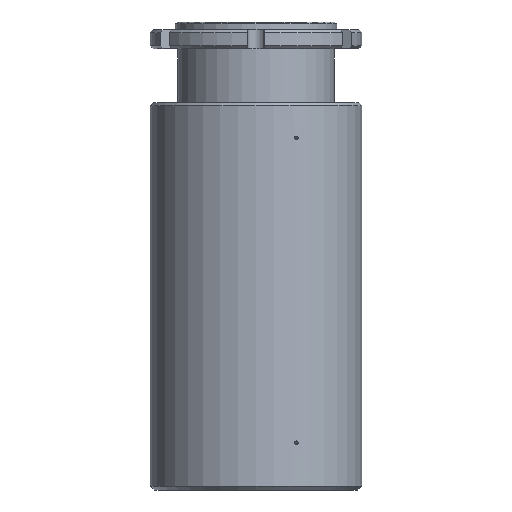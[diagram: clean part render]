
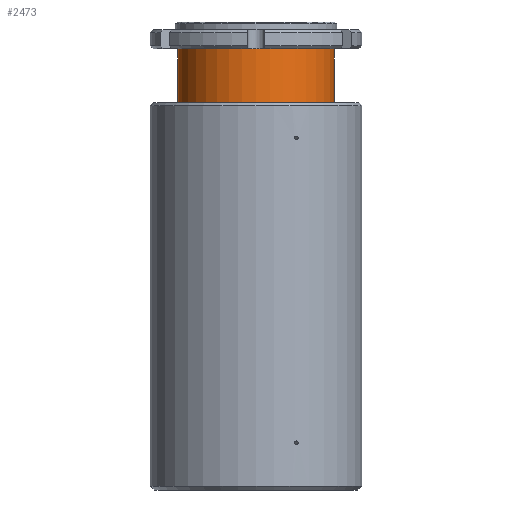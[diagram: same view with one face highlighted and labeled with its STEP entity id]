
A CAD part, front view. The second image highlights one B-rep face of the part: STEP entity #2473.
In plain terms, the highlighted cylindrical face has radius 32.36 mm (diameter 64.719 mm), a partial arc.
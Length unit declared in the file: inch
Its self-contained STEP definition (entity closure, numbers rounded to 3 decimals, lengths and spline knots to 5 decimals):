
#820 = AXIS2_PLACEMENT_3D ( 'NONE', #8762, #8763, #8764 ) ;
#983 = VECTOR ( 'NONE', #8660, 39.37008 ) ;
#1035 = CIRCLE ( 'NONE', #820, 1.274 ) ;
#1334 = AXIS2_PLACEMENT_3D ( 'NONE', #8765, #8766, #8767 ) ;
#1340 = CIRCLE ( 'NONE', #1334, 1.274 ) ;
#1604 = EDGE_CURVE ( 'NONE', #9570, #9563, #8655, .T. ) ;
#1626 = EDGE_CURVE ( 'NONE', #9562, #9570, #1035, .T. ) ;
#1627 = EDGE_CURVE ( 'NONE', #9560, #9563, #1340, .T. ) ;
#2230 = EDGE_CURVE ( 'NONE', #9562, #9560, #6837, .T. ) ;
#2473 = ADVANCED_FACE ( 'NONE', ( #6099 ), #6098, .T. ) ;
#3035 = VECTOR ( 'NONE', #6841, 39.37008 ) ;
#3408 = AXIS2_PLACEMENT_3D ( 'NONE', #6100, #6096, #6102 ) ;
#4276 = CARTESIAN_POINT ( 'NONE',  ( -1.274, 0., -0.437 ) ) ;
#4280 = CARTESIAN_POINT ( 'NONE',  ( -1.274, 0., -1.31205 ) ) ;
#4282 = CARTESIAN_POINT ( 'NONE',  ( 1.274, 0., -0.437 ) ) ;
#4295 = CARTESIAN_POINT ( 'NONE',  ( 1.274, 0., -1.31205 ) ) ;
#6096 = DIRECTION ( 'NONE',  ( 0., 0., 1. ) ) ;
#6098 = CYLINDRICAL_SURFACE ( 'NONE', #3408, 1.274 ) ;
#6099 = FACE_OUTER_BOUND ( 'NONE', #9885, .T. ) ;
#6100 = CARTESIAN_POINT ( 'NONE',  ( 0., 0., 0. ) ) ;
#6102 = DIRECTION ( 'NONE',  ( 1., 0., 0. ) ) ;
#6816 = CARTESIAN_POINT ( 'NONE',  ( -1.274, 0., 0. ) ) ;
#6837 = LINE ( 'NONE', #6816, #3035 ) ;
#6841 = DIRECTION ( 'NONE',  ( 0., 0., 1. ) ) ;
#7739 = ORIENTED_EDGE ( 'NONE', *, *, #2230, .F. ) ;
#7740 = ORIENTED_EDGE ( 'NONE', *, *, #1626, .T. ) ;
#7741 = ORIENTED_EDGE ( 'NONE', *, *, #1604, .T. ) ;
#7742 = ORIENTED_EDGE ( 'NONE', *, *, #1627, .F. ) ;
#8651 = CARTESIAN_POINT ( 'NONE',  ( 1.274, 0., 0. ) ) ;
#8655 = LINE ( 'NONE', #8651, #983 ) ;
#8660 = DIRECTION ( 'NONE',  ( 0., 0., 1. ) ) ;
#8762 = CARTESIAN_POINT ( 'NONE',  ( 0., 0., -1.31205 ) ) ;
#8763 = DIRECTION ( 'NONE',  ( 0., 0., 1. ) ) ;
#8764 = DIRECTION ( 'NONE',  ( 1., 0., 0. ) ) ;
#8765 = CARTESIAN_POINT ( 'NONE',  ( 0., 0., -0.437 ) ) ;
#8766 = DIRECTION ( 'NONE',  ( 0., 0., 1. ) ) ;
#8767 = DIRECTION ( 'NONE',  ( 1., 0., 0. ) ) ;
#9560 = VERTEX_POINT ( 'NONE', #4276 ) ;
#9562 = VERTEX_POINT ( 'NONE', #4280 ) ;
#9563 = VERTEX_POINT ( 'NONE', #4282 ) ;
#9570 = VERTEX_POINT ( 'NONE', #4295 ) ;
#9885 = EDGE_LOOP ( 'NONE', ( #7739, #7740, #7741, #7742 ) ) ;
